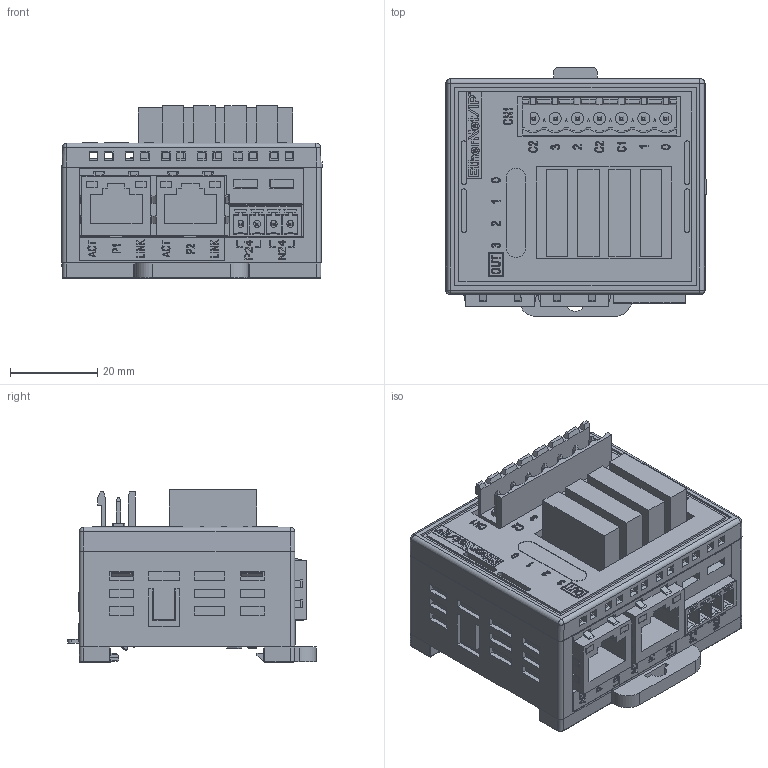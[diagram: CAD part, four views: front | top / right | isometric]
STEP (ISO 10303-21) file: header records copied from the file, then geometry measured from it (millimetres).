
FILE_DESCRIPTION((''),'2;1');
FILE_NAME('EICBY04','2026-05-11T15:12:03',('gijyu181'),(''),'CREO PARAMETRIC BY PTC INC, 2018050','CREO PARAMETRIC BY PTC INC, 2018050','');
FILE_SCHEMA(('CONFIG_CONTROL_DESIGN','SHAPE_APPEARANCE_LAYERS_GROUPS'));
Products named in the file (1): EICBY04
Bounding box: 59.75 x 57.15 x 39.6 mm (x, y, z)
Volume: 72227.6 mm3; surface area: 38314.2 mm2
Topology: 1 solids, 15 shells, 5336 faces, 14769 edges, 9736 vertices
Faces by surface type: plane 3830, cylinder 693, extrusion 681, sphere 51, cone 31, torus 26, bspline 24
Entity records: 216409 total; most frequent: CARTESIAN_POINT 38511, ORIENTED_EDGE 29506, DIRECTION 24416, EDGE_CURVE 14757, VECTOR 12326, LINE 11645, VERTEX_POINT 9736, PRESENTATION_STYLE_ASSIGNMENT 8890
